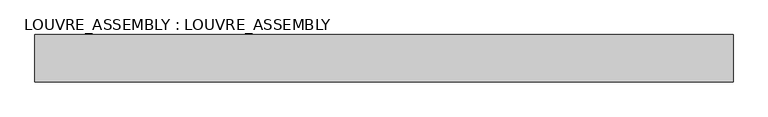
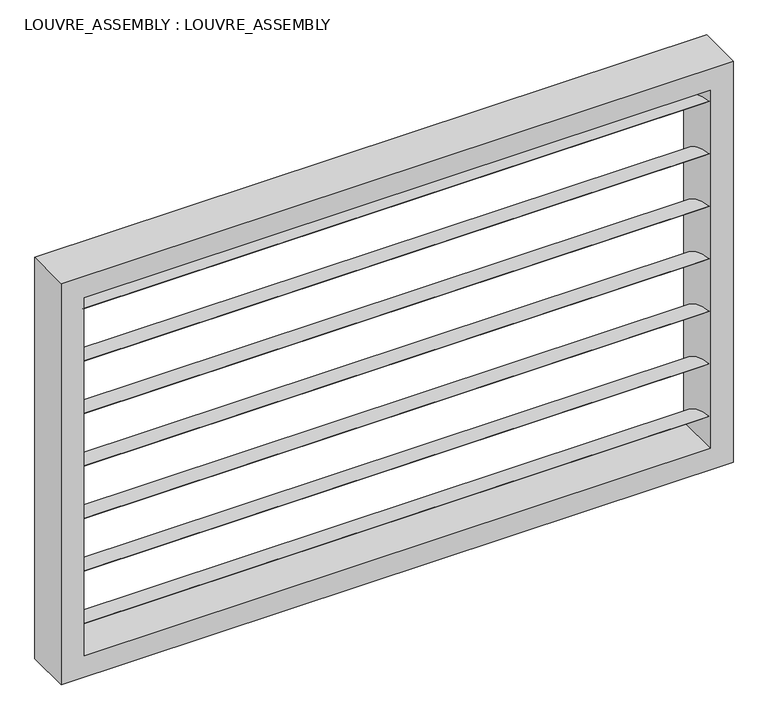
"""IFC4 building model written with IfcOpenShell, lengths in millimetres: plate geometry, LOUVRE_ASSEMBLY : LOUVRE_ASSEMBLY."""

import ifcopenshell
import ifcopenshell.guid

model = None  # the IFC model being written
_history = None  # IfcOwnerHistory: only IFC2X3 demands one
_inside = {}  # id of a spatial element -> (the spatial element, [elements in it])
_under = {}  # id of a project, library or spatial element -> (it, [spatial elements below it])
_declared = {}  # id of a project -> (the project, [libraries it declares])
_typed = {}  # id of a type object -> (the type object, [elements of that type])
_made_of = {}  # id of a material, layer set ... -> (it, [elements and type objects made of it])


def new_model(schema):
    """Start an empty IFC model of exactly this schema.

    Asked for "IFC4X3", IfcOpenShell would pick the latest addendum, in which some entities
    have other attributes; the version numbers below select the first issue.
    IFC2X3 requires an IfcOwnerHistory on every rooted entity: one is made here for all.
    """
    global model, _history
    if schema == "IFC4X3":
        model = ifcopenshell.file(schema_version=(4, 3, 0, 0))
    else:
        model = ifcopenshell.file(schema=schema)
    _inside.clear()
    _under.clear()
    _declared.clear()
    _typed.clear()
    _made_of.clear()
    _history = None
    if model.schema == "IFC2X3":
        org = make("IfcOrganization", Name="unknown")
        user = make(
            "IfcPersonAndOrganization",
            ThePerson=make("IfcPerson", FamilyName="unknown"),
            TheOrganization=org,
        )
        app = make(
            "IfcApplication",
            ApplicationDeveloper=org,
            Version="unknown",
            ApplicationFullName="unknown",
            ApplicationIdentifier="unknown",
        )
        _history = make(
            "IfcOwnerHistory",
            OwningUser=user,
            OwningApplication=app,
            ChangeAction="ADDED",
            CreationDate=0,
        )
    return model


def make(cls, **values):
    """One entity of the class cls with the attributes given. An attribute that is None is left unset."""
    return model.create_entity(
        cls, **{name: value for name, value in values.items() if value is not None}
    )


def rooted(cls, **values):
    """An entity with a GlobalId (a new one), such as an element, a storey or a relation."""
    return make(cls, GlobalId=ifcopenshell.guid.new(), OwnerHistory=_history, **values)


def si_unit(unit_type, name, prefix=None):
    """IfcSIUnit, for example si_unit("LENGTHUNIT", "METRE", prefix="MILLI")."""
    return make("IfcSIUnit", UnitType=unit_type, Prefix=prefix, Name=name)


def assignment(units):
    """IfcUnitAssignment: the units of a project."""
    return None if units is None else make("IfcUnitAssignment", Units=units)


def point(xyz):
    """IfcCartesianPoint."""
    return None if xyz is None else make("IfcCartesianPoint", Coordinates=xyz)


def direction(xyz):
    """IfcDirection."""
    return None if xyz is None else make("IfcDirection", DirectionRatios=xyz)


def frame(location, z_axis=None, x_axis=None):
    """IfcAxis2Placement3D, a coordinate frame: its origin and axes. An axis left out is left unset."""
    return make(
        "IfcAxis2Placement3D",
        Location=point(location),
        Axis=direction(z_axis),
        RefDirection=direction(x_axis),
    )


def frame_2d(location, x_axis=None):
    """IfcAxis2Placement2D, a coordinate frame in the plane: its origin and x axis."""
    return make(
        "IfcAxis2Placement2D", Location=point(location), RefDirection=direction(x_axis)
    )


def origin():
    """The frame at (0, 0, 0) with its axes left unset."""
    return frame((0.0, 0.0, 0.0))


def place(relative_to, where):
    """IfcLocalPlacement: puts the frame where relative to a parent placement (None: the world)."""
    return make(
        "IfcLocalPlacement", PlacementRelTo=relative_to, RelativePlacement=where
    )


def context(
    kind, dimensions, precision=None, world=None, true_north=None, identifier=None
):
    """IfcGeometricRepresentationContext, for example the 3D "Model" context."""
    return make(
        "IfcGeometricRepresentationContext",
        ContextIdentifier=identifier,
        ContextType=kind,
        CoordinateSpaceDimension=dimensions,
        Precision=precision,
        WorldCoordinateSystem=world,
        TrueNorth=true_north,
    )


def project(units=None, contexts=None):
    """IfcProject with its units and contexts."""
    return rooted(
        "IfcProject",
        Name="project",
        RepresentationContexts=contexts,
        UnitsInContext=assignment(units),
    )


def spatial(cls, under=None, at=None, **own):
    """A site, building, storey or space (cls), placed at a placement, below another one or the project."""
    s = rooted(cls, ObjectPlacement=at, **own)
    if under is not None:
        _under.setdefault(under.id(), (under, []))[1].append(s)
    return s


def circle_curve(where, radius):
    """IfcCircle in the frame where."""
    return make("IfcCircle", Position=where, Radius=radius)


def trimmed(basis, trim1, trim2, sense, master):
    """IfcTrimmedCurve: the piece of a basis curve between two trims."""
    return make(
        "IfcTrimmedCurve",
        BasisCurve=basis,
        Trim1=trim1,
        Trim2=trim2,
        SenseAgreement=sense,
        MasterRepresentation=master,
    )


def segment(curve, same_sense, transition):
    """IfcCompositeCurveSegment."""
    return make(
        "IfcCompositeCurveSegment",
        Transition=transition,
        SameSense=same_sense,
        ParentCurve=curve,
    )


def composite_curve(segments, self_intersect=None):
    """IfcCompositeCurve: segments joined end to end."""
    return make("IfcCompositeCurve", Segments=segments, SelfIntersect=self_intersect)


def outline(outer, holes=None, kind="AREA"):
    """IfcArbitraryClosedProfileDef: a profile drawn as a closed curve; with holes, ...WithVoids."""
    if holes is None:
        return make("IfcArbitraryClosedProfileDef", ProfileType=kind, OuterCurve=outer)
    return make(
        "IfcArbitraryProfileDefWithVoids",
        ProfileType=kind,
        OuterCurve=outer,
        InnerCurves=holes,
    )


def extrude(swept, where, along, depth):
    """IfcExtrudedAreaSolid: the profile swept, set in the frame where, extruded along a direction by depth."""
    return make(
        "IfcExtrudedAreaSolid",
        SweptArea=swept,
        Position=where,
        ExtrudedDirection=direction(along),
        Depth=depth,
    )


def faces_of(points, faces, orient=None, outer=None):
    """IfcFace entities. A face is a list of loops; a loop is a list of indices into points, from 0.

    orient and outer hold one flag for each loop. By default every Orientation is true, the
    first loop of a face is its IfcFaceOuterBound and the others are IfcFaceBound.
    """
    made = []
    for i, loops in enumerate(faces):
        bounds = []
        for j, loop in enumerate(loops):
            is_outer = j == 0 if outer is None else outer[i][j]
            bounds.append(
                make(
                    "IfcFaceOuterBound" if is_outer else "IfcFaceBound",
                    Bound=make("IfcPolyLoop", Polygon=[points[k] for k in loop]),
                    Orientation=True if orient is None else orient[i][j],
                )
            )
        made.append(make("IfcFace", Bounds=bounds))
    return made


def faceted_brep(points, faces, orient=None, outer=None, voids=None):
    """IfcFacetedBrep: a solid bounded by flat faces; with voids (closed shells), ...WithVoids."""
    shared = [point(p) for p in points]
    hull = make("IfcClosedShell", CfsFaces=faces_of(shared, faces, orient, outer))
    if voids is None:
        return make("IfcFacetedBrep", Outer=hull)
    return make(
        "IfcFacetedBrepWithVoids",
        Outer=hull,
        Voids=[
            make(cls, CfsFaces=faces_of(shared, fs, o, b)) for cls, fs, o, b in voids
        ],
    )


def shape(context_of_items, identifier, shape_type, items):
    """IfcShapeRepresentation: the items that make up one representation, for example the "Body"."""
    return make(
        "IfcShapeRepresentation",
        ContextOfItems=context_of_items,
        RepresentationIdentifier=identifier,
        RepresentationType=shape_type,
        Items=items,
    )


def source(mapping_origin, context_of_items, identifier, shape_type, items):
    """IfcRepresentationMap: a shape defined once, which mapped items show again and again."""
    return make(
        "IfcRepresentationMap",
        MappingOrigin=mapping_origin,
        MappedRepresentation=shape(context_of_items, identifier, shape_type, items),
    )


def transform(
    local_origin,
    x_axis=None,
    y_axis=None,
    z_axis=None,
    scale=None,
    scale2=None,
    scale3=None,
    uniform=True,
):
    """IfcCartesianTransformationOperator3D, or its non-uniform kind. x_axis, y_axis, z_axis: its Axis1, 2, 3."""
    if uniform:
        return make(
            "IfcCartesianTransformationOperator3D",
            Axis1=direction(x_axis),
            Axis2=direction(y_axis),
            LocalOrigin=point(local_origin),
            Scale=scale,
            Axis3=direction(z_axis),
        )
    return make(
        "IfcCartesianTransformationOperator3DnonUniform",
        Axis1=direction(x_axis),
        Axis2=direction(y_axis),
        LocalOrigin=point(local_origin),
        Scale=scale,
        Axis3=direction(z_axis),
        Scale2=scale2,
        Scale3=scale3,
    )


def mapped(mapping_source, mapping_target):
    """IfcMappedItem: shows the shape of a source again, moved by a transform."""
    return make(
        "IfcMappedItem", MappingSource=mapping_source, MappingTarget=mapping_target
    )


def made_of(thing, what):
    """Note that an element or type object is made of a material, layer set ...; save() writes the relation."""
    if what is not None:
        _made_of.setdefault(what.id(), (what, []))[1].append(thing)
    return thing


def element(
    cls,
    number,
    at=None,
    inside=None,
    cuts=None,
    type_object=None,
    material=None,
    context=None,
    identifier="Body",
    shape_type=None,
    held_by="IfcProductDefinitionShape",
    body=None,
    shapes=None,
    **own,
):
    """One element of the class cls, such as IfcWall. Its Tag is "e" and its number.

    at: its placement. inside: the storey or other place that contains it. cuts: it is an
    opening in that element (IfcRelVoidsElement). A single representation is given by context,
    identifier, shape_type and body (its items); several are given by shapes. held_by: the class
    of the entity that holds the representations. save() writes the other relations.
    """
    e = rooted(cls, Tag="e%d" % number, ObjectPlacement=at, **own)
    if body is not None:
        shapes = [shape(context, identifier, shape_type, body)]
    if shapes is not None:
        e.Representation = make(held_by, Representations=shapes)
    if inside is not None:
        _inside.setdefault(inside.id(), (inside, []))[1].append(e)
    if cuts is not None:
        rooted(
            "IfcRelVoidsElement", RelatingBuildingElement=cuts, RelatedOpeningElement=e
        )
    if type_object is not None:
        _typed.setdefault(type_object.id(), (type_object, []))[1].append(e)
    return made_of(e, material)


def aggregate(whole, parts):
    """IfcRelAggregates: a whole, such as a stair, and the parts it consists of."""
    return rooted("IfcRelAggregates", RelatingObject=whole, RelatedObjects=parts)


def save(model, path):
    """Write the relations noted so far, then the file.

    IfcRelAggregates (storeys below a building ...), IfcRelContainedInSpatialStructure (elements
    in a storey), IfcRelDefinesByType, IfcRelAssociatesMaterial and IfcRelDeclares: one each for
    every whole, place, type object, material and project.
    """
    for whole, parts in _under.values():
        aggregate(whole, parts)
    for where, things in _inside.values():
        rooted(
            "IfcRelContainedInSpatialStructure",
            RelatedElements=things,
            RelatingStructure=where,
        )
    for kind, things in _typed.values():
        rooted("IfcRelDefinesByType", RelatedObjects=things, RelatingType=kind)
    for what, things in _made_of.values():
        rooted("IfcRelAssociatesMaterial", RelatedObjects=things, RelatingMaterial=what)
    for by, libraries in _declared.values():
        rooted("IfcRelDeclares", RelatingContext=by, RelatedDefinitions=libraries)
    model.write(path)


def louvre_assembly_louvre_assembly_f5917f82(model_context):
    return source(origin(), model_context, "Body", "SolidModel", [
        extrude(outline(composite_curve([segment(trimmed(circle_curve(frame_2d((88.749835, 522.8246353)), 222.9910312), [point((67.973084, 300.8036304))], [point((-67.973084, 364.1963696))], False, "CARTESIAN"), True, "CONTINUOUS"), segment(trimmed(circle_curve(frame_2d((-88.749835, 142.1753647)), 222.9910312), [point((-67.973084, 364.1963696))], [point((67.973084, 300.8036304))], False, "CARTESIAN"), True, "CONTINUOUS")], self_intersect=False)), frame((-1030.0, 0.0, 0.0), z_axis=(1.0, 0.0, 0.0), x_axis=(0.0, 1.0, 0.0)), (0.0, 0.0, 1.0), 2060.0),
        extrude(outline(composite_curve([segment(trimmed(circle_curve(frame_2d((88.749835, 705.3246353)), 222.9910312), [point((67.973084, 483.3036304))], [point((-67.973084, 546.6963696))], False, "CARTESIAN"), True, "CONTINUOUS"), segment(trimmed(circle_curve(frame_2d((-88.749835, 324.6753647)), 222.9910312), [point((-67.973084, 546.6963696))], [point((67.973084, 483.3036304))], False, "CARTESIAN"), True, "CONTINUOUS")], self_intersect=False)), frame((-1030.0, 0.0, 0.0), z_axis=(1.0, 0.0, 0.0), x_axis=(0.0, 1.0, 0.0)), (0.0, 0.0, 1.0), 2060.0),
        extrude(outline(composite_curve([segment(trimmed(circle_curve(frame_2d((88.749835, 887.8246353)), 222.9910312), [point((67.973084, 665.8036304))], [point((-67.973084, 729.1963696))], False, "CARTESIAN"), True, "CONTINUOUS"), segment(trimmed(circle_curve(frame_2d((-88.749835, 507.1753647)), 222.9910312), [point((-67.973084, 729.1963696))], [point((67.973084, 665.8036304))], False, "CARTESIAN"), True, "CONTINUOUS")], self_intersect=False)), frame((-1030.0, 0.0, 0.0), z_axis=(1.0, 0.0, 0.0), x_axis=(0.0, 1.0, 0.0)), (0.0, 0.0, 1.0), 2060.0),
        extrude(outline(composite_curve([segment(trimmed(circle_curve(frame_2d((88.749835, 1070.3246353)), 222.9910312), [point((67.973084, 848.3036304))], [point((-67.973084, 911.6963696))], False, "CARTESIAN"), True, "CONTINUOUS"), segment(trimmed(circle_curve(frame_2d((-88.749835, 689.6753647)), 222.9910312), [point((-67.973084, 911.6963696))], [point((67.973084, 848.3036304))], False, "CARTESIAN"), True, "CONTINUOUS")], self_intersect=False)), frame((-1030.0, 0.0, 0.0), z_axis=(1.0, 0.0, 0.0), x_axis=(0.0, 1.0, 0.0)), (0.0, 0.0, 1.0), 2060.0),
        extrude(outline(composite_curve([segment(trimmed(circle_curve(frame_2d((88.749835, 1252.8246353)), 222.9910312), [point((67.973084, 1030.8036304))], [point((-67.973084, 1094.1963696))], False, "CARTESIAN"), True, "CONTINUOUS"), segment(trimmed(circle_curve(frame_2d((-88.749835, 872.1753647)), 222.9910312), [point((-67.973084, 1094.1963696))], [point((67.973084, 1030.8036304))], False, "CARTESIAN"), True, "CONTINUOUS")], self_intersect=False)), frame((-1030.0, 0.0, 0.0), z_axis=(1.0, 0.0, 0.0), x_axis=(0.0, 1.0, 0.0)), (0.0, 0.0, 1.0), 2060.0),
        extrude(outline(composite_curve([segment(trimmed(circle_curve(frame_2d((88.749835, 340.3246353)), 222.9910312), [point((67.973084, 118.3036304))], [point((-67.973084, 181.6963696))], False, "CARTESIAN"), True, "CONTINUOUS"), segment(trimmed(circle_curve(frame_2d((-88.749835, -40.3246353)), 222.9910312), [point((-67.973084, 181.6963696))], [point((67.973084, 118.3036304))], False, "CARTESIAN"), True, "CONTINUOUS")], self_intersect=False)), frame((-1030.0, 0.0, 0.0), z_axis=(1.0, 0.0, 0.0), x_axis=(0.0, 1.0, 0.0)), (0.0, 0.0, 1.0), 2060.0),
        extrude(outline(composite_curve([segment(trimmed(circle_curve(frame_2d((88.749835, 1435.3246353)), 222.9910312), [point((67.973084, 1213.3036304))], [point((-67.973084, 1276.6963696))], False, "CARTESIAN"), True, "CONTINUOUS"), segment(trimmed(circle_curve(frame_2d((-88.749835, 1054.6753647)), 222.9910312), [point((-67.973084, 1276.6963696))], [point((67.973084, 1213.3036304))], False, "CARTESIAN"), True, "CONTINUOUS")], self_intersect=False)), frame((-1030.0, 0.0, 0.0), z_axis=(1.0, 0.0, 0.0), x_axis=(0.0, 1.0, 0.0)), (0.0, 0.0, 1.0), 2060.0),
        faceted_brep([(-1105.0, -75.0, 1395.0), (-1105.0, 75.0, 1395.0), (-1105.0, 75.0, 0.0), (-1105.0, -75.0, 0.0), (-1099.375, 75.0, 1389.375), (-1099.375, -69.375, 1389.375), (-1099.375, -69.375, 5.625), (-1099.375, 75.0, 5.625), (-1035.625, -69.375, 1325.625), (-1035.625, 75.0, 1325.625), (-1035.625, 75.0, 69.375), (-1035.625, -69.375, 69.375), (-1030.0, 75.0, 1320.0), (-1030.0, -75.0, 1320.0), (-1030.0, -75.0, 75.0), (-1030.0, 75.0, 75.0), (1105.0, 75.0, 0.0), (1105.0, -75.0, 0.0), (1099.375, -69.375, 5.625), (1099.375, 75.0, 5.625), (1035.625, 75.0, 69.375), (1035.625, -69.375, 69.375), (1030.0, -75.0, 75.0), (1030.0, 75.0, 75.0), (1105.0, 75.0, 1395.0), (1105.0, -75.0, 1395.0), (1099.375, -69.375, 1389.375), (1099.375, 75.0, 1389.375), (1035.625, 75.0, 1325.625), (1035.625, -69.375, 1325.625), (1030.0, -75.0, 1320.0), (1030.0, 75.0, 1320.0)], [[[0, 1, 2, 3]], [[4, 5, 6, 7]], [[8, 9, 10, 11]], [[12, 13, 14, 15]], [[3, 2, 16, 17]], [[7, 6, 18, 19]], [[11, 10, 20, 21]], [[15, 14, 22, 23]], [[17, 16, 24, 25]], [[19, 18, 26, 27]], [[21, 20, 28, 29]], [[23, 22, 30, 31]], [[25, 24, 1, 0]], [[27, 26, 5, 4]], [[29, 28, 9, 8]], [[31, 30, 13, 12]], [[3, 17, 25, 0], [13, 30, 22, 14]], [[9, 28, 20, 10], [15, 23, 31, 12]], [[5, 26, 18, 6], [11, 21, 29, 8]], [[1, 24, 16, 2], [7, 19, 27, 4]]]),
    ])


if __name__ == "__main__":
    model = new_model("IFC4")
    model_context = context("Model", 3, world=origin())
    ifc_project = project(units=[si_unit("LENGTHUNIT", "METRE", prefix="MILLI")], contexts=[model_context])
    site = spatial("IfcSite", under=ifc_project)
    building = spatial("IfcBuilding", under=site)
    placement = place(None, origin())
    louvre_assembly_louvre_assembly_shape = louvre_assembly_louvre_assembly_f5917f82(model_context)
    element("IfcPlate", 1, ObjectType="LOUVRE_ASSEMBLY : LOUVRE_ASSEMBLY", at=placement, inside=building, context=model_context, shape_type="MappedRepresentation", body=[
        mapped(louvre_assembly_louvre_assembly_shape, transform((0.0, 0.0, 0.0), x_axis=(1.0, 0.0, 0.0), y_axis=(0.0, 1.0, 0.0), z_axis=(0.0, 0.0, 1.0))),
    ])
    save(model, "model.ifc")
